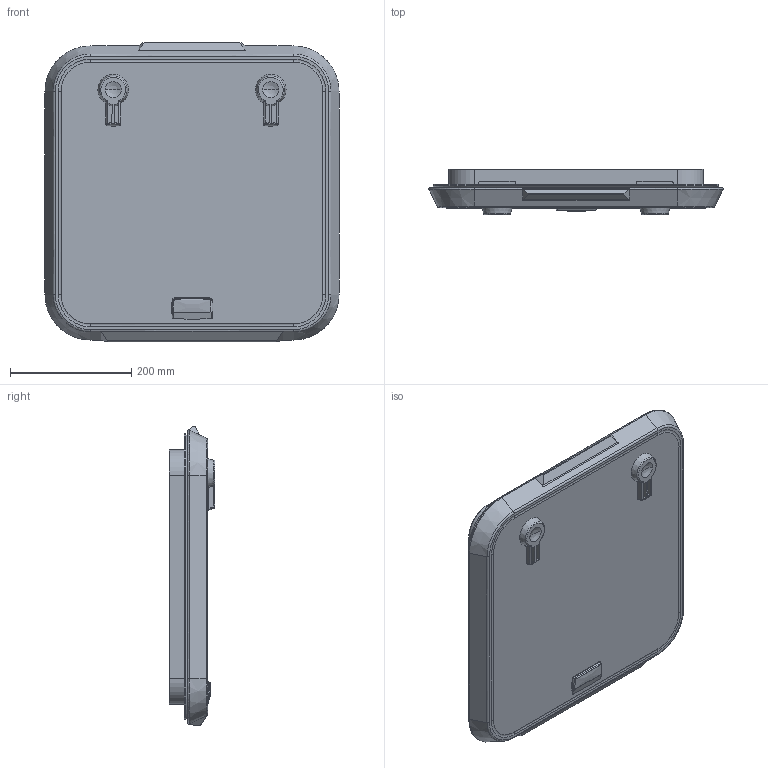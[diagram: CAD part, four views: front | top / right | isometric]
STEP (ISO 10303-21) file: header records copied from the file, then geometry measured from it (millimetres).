
FILE_DESCRIPTION((''),'2;1');
FILE_NAME('LEWMAR_HATCH_OCEAN_40_FLANGE_ASM','2008-02-21T',('skennedy'),(''),'PRO/ENGINEER BY PARAMETRIC TECHNOLOGY CORPORATION, 2007030','PRO/ENGINEER BY PARAMETRIC TECHNOLOGY CORPORATION, 2007030','');
FILE_SCHEMA(('CONFIG_CONTROL_DESIGN'));
Length unit declared in the file: millimetre
Products named in the file (6): OCEAN_ACRYLIC_40; OCEAN_LARGE_HINGE_LEVER_1; FRAME_40_FLANGE; OCEAN_LARGE_HANDLE_2; OCEAN_LARGE_HANDLE_1; LEWMAR_HATCH_OCEAN_40_FLANGE_ASM
Assembly tree (5 placements, depth 2):
  LEWMAR_HATCH_OCEAN_40_FLANGE_ASM
    OCEAN_ACRYLIC_40
    OCEAN_LARGE_HINGE_LEVER_1
    FRAME_40_FLANGE
    OCEAN_LARGE_HANDLE_2
    OCEAN_LARGE_HANDLE_1
Bounding box: 484.98 x 75.5 x 494.36 mm (x, y, z)
Volume: 2275352.5 mm3; surface area: 867850.1 mm2
Topology: 6 solids, 7 shells, 759 faces, 1860 edges, 1124 vertices
Faces by surface type: bspline 271, plane 240, cylinder 154, cone 33, torus 32, sphere 22, extrusion 7
Entity records: 31054 total; most frequent: CARTESIAN_POINT 14738, ORIENTED_EDGE 3712, DIRECTION 2735, EDGE_CURVE 1856, VERTEX_POINT 1124, AXIS2_PLACEMENT_3D 926, VECTOR 883, LINE 876
